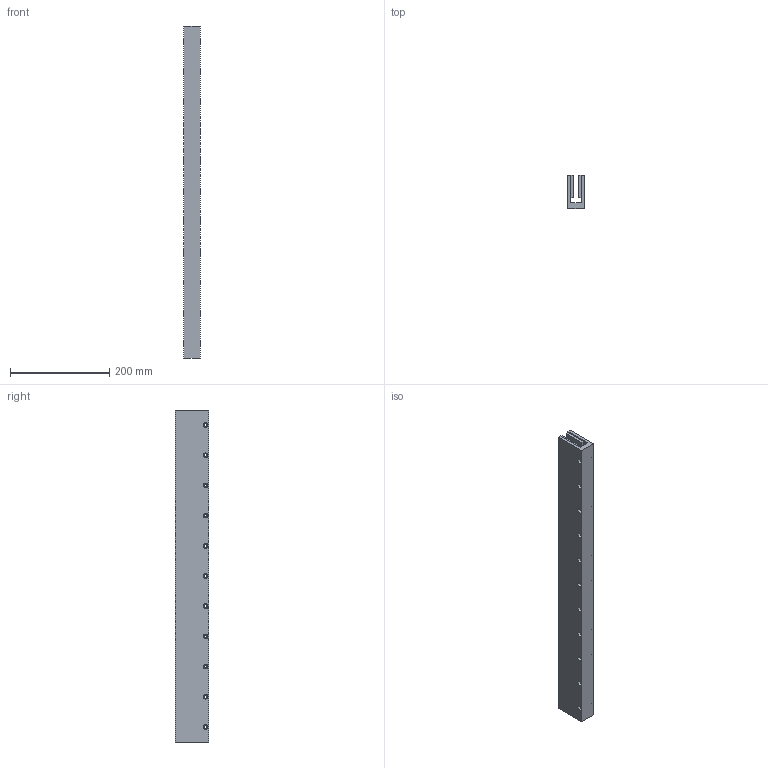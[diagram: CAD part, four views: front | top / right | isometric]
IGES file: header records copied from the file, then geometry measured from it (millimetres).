
Global section: file name: No Iges File Name specified; native system: Autodesk Inventor 2012; preprocessor: AutoDesk Inventor Iges Exporter R2012; author: je17857; date: 20120511.155643; units: inch
Bounding box: 34.29 x 67.31 x 670.31 mm (x, y, z)
Volume: 996813.7 mm3; surface area: 254913.8 mm2
Topology: 1 solids, 1 shells, 285 faces, 651 edges, 434 vertices
Faces by surface type: plane 252, revolution 33
